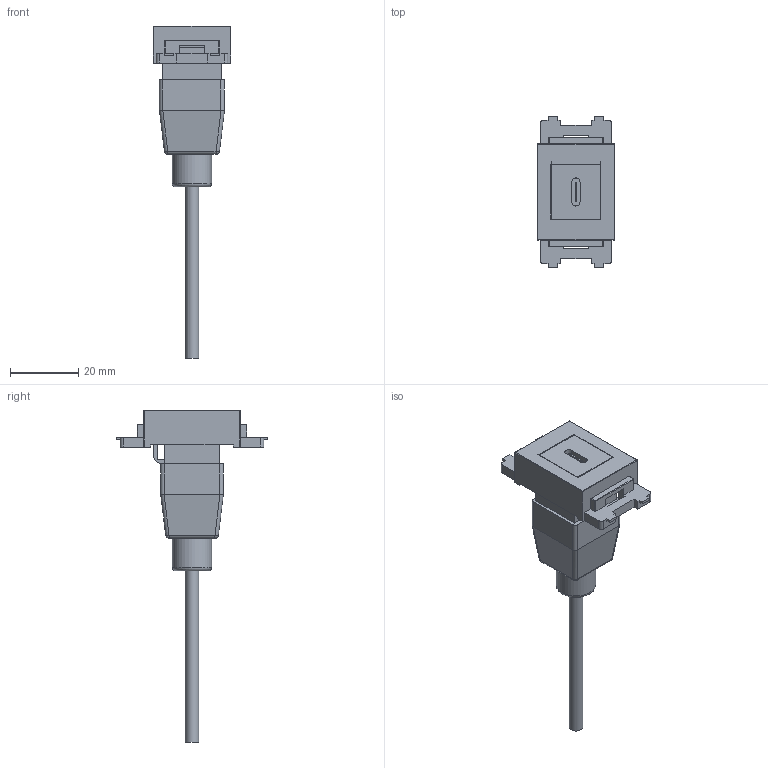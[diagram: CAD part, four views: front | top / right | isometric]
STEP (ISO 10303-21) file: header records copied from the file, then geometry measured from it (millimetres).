
FILE_DESCRIPTION(('FreeCAD Model'),'2;1');
FILE_NAME('Open CASCADE Shape Model','2026-06-18T14:27:17',(''),(''), 'Open CASCADE STEP processor 7.8','FreeCAD','Unknown');
FILE_SCHEMA(('AUTOMOTIVE_DESIGN { 1 0 10303 214 1 1 1 1 }'));
Length unit declared in the file: millimetre
Products named in the file (3): Unnamed; FW-406-USB31-CM-X_F; SY-NWT-KV-xx
Assembly tree (2 placements, depth 2):
  Unnamed
    FW-406-USB31-CM-X_F
    SY-NWT-KV-xx
Bounding box: 22.65 x 44.3 x 97 mm (x, y, z)
Volume: 16022.7 mm3; surface area: 9018.9 mm2
Topology: 2 solids, 2 shells, 209 faces, 556 edges, 347 vertices
Faces by surface type: bspline 144, plane 37, cylinder 19, sphere 8, torus 1
Full cylindrical faces by diameter (mm): 4 x1, 11.5 x1
Entity records: 8438 total; most frequent: CARTESIAN_POINT 4460, ORIENTED_EDGE 1096, EDGE_CURVE 548, B_SPLINE_CURVE_WITH_KNOTS 385, VERTEX_POINT 347, DIRECTION 339, FACE_BOUND 219, EDGE_LOOP 219
